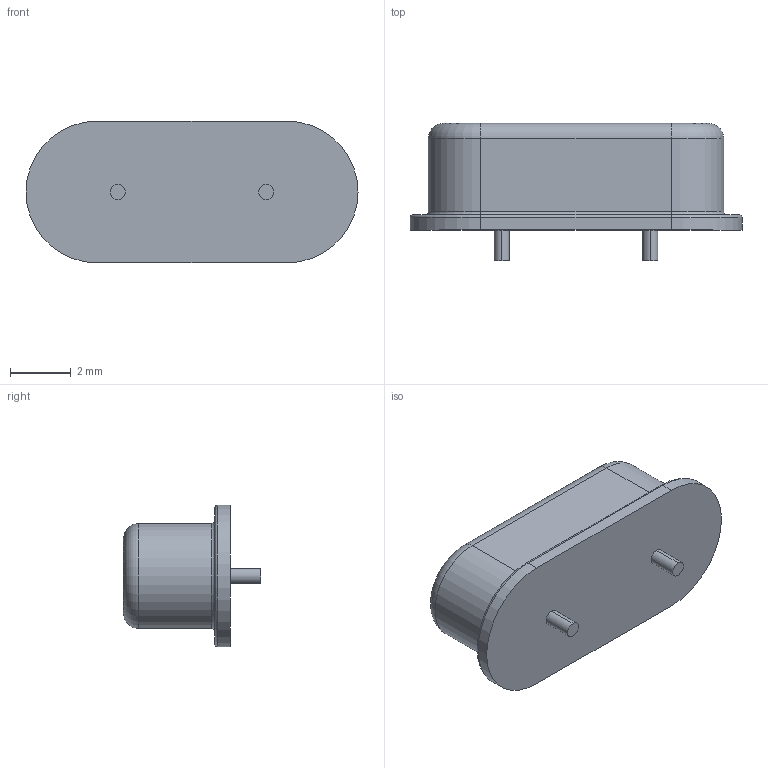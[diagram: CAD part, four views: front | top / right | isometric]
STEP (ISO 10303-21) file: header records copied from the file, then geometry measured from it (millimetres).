
FILE_DESCRIPTION (( 'STEP AP214' ), '1' );
FILE_NAME ( 'XTAL_HC49P488W50L1090T465H350P.STEP', '2014-04-11T12:31:22', ( '' ), ( '' ), 'FPX Expert 2013', 'PCB Libraries', '' );
FILE_SCHEMA (( 'AUTOMOTIVE_DESIGN' ));
Length unit declared in the file: millimetre
Products named in the file (1): XTAL_HC49P488W50L1090T465H350P
Bounding box: 10.9 x 4.5 x 4.65 mm (x, y, z)
Volume: 114.9 mm3; surface area: 172.3 mm2
Topology: 3 solids, 3 shells, 31 faces, 60 edges, 36 vertices
Faces by surface type: cylinder 14, plane 11, torus 6
Entity records: 933 total; most frequent: DIRECTION 158, CARTESIAN_POINT 128, ORIENTED_EDGE 120, AXIS2_PLACEMENT_3D 66, EDGE_CURVE 60, VERTEX_POINT 36, STYLED_ITEM 35, PRESENTATION_LAYER_ASSIGNMENT 35
